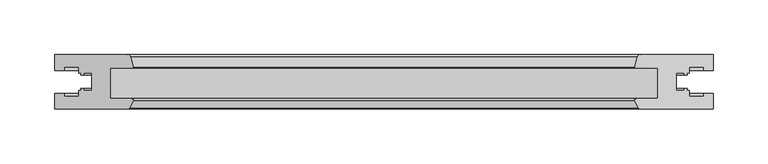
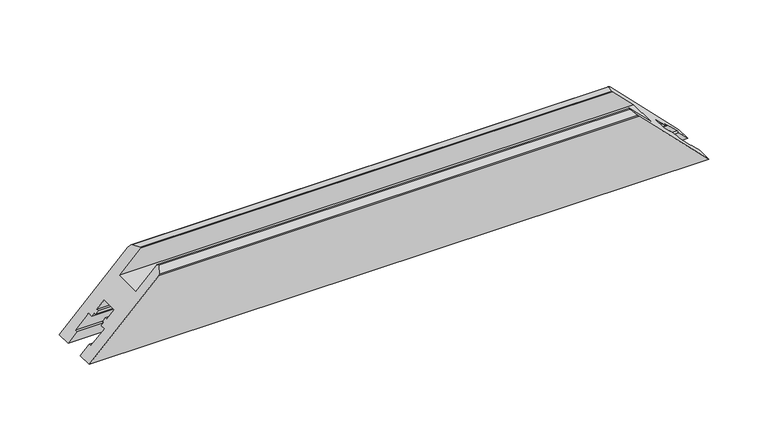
"""IFC4 building model written with IfcOpenShell, lengths in millimetres: proxy geometry, Weiku - Montante - Folha de correr 02.2.01.020 : Weiku - Montante - Folha de correr 02.2.01.020."""

from ifc_helpers import new_model, si_unit, frame, origin, place, context, project, spatial, ellipse_curve, source, transform, mapped, element, save
from ifc_brep_helpers import plane_surface, cylinder_surface, advanced_brep


def generic_models_2c0dd629(model_context):
    return source(origin(), model_context, "Body", "AdvancedBrep", [
        advanced_brep(
        [(301.125, 50.0, 0.0), (-301.125, 50.0, 0.0), (-234.6254942, 50.0, 66.4995058), (234.6254942, 50.0, 66.4995058), (301.125, 35.5, 0.0), (-301.125, 35.5, 0.0), (-301.125, 0.0, 0.0), (301.125, 0.0, 0.0), (233.6129875, 0.0, 67.5120125), (-233.6129875, 0.0, 67.5120125), (-292.525, 35.5, 8.6), (-292.525, 38.3, 8.6), (-279.325, 38.3, 21.8), (-279.325, 33.1, 21.8), (-276.9774152, 33.1, 24.1475848), (-277.1523926, 31.1, 23.9726074), (-274.325, 31.1, 26.8), (-274.325, 33.1, 26.8), (-267.125, 33.1, 34.0), (-267.125, 16.9, 34.0), (-274.325, 16.9, 26.8), (-274.325, 18.9, 26.8), (-277.1523926, 18.9, 23.9726074), (-276.9774152, 16.9, 24.1475848), (-279.325, 16.9, 21.8), (-279.325, 11.7, 21.8), (-292.525, 11.7, 8.6), (-292.525, 14.5, 8.6), (-301.125, 14.5, 0.0), (-232.7190268, 0.5518546, 68.4059732), (-229.1770406, 7.617411, 71.9479594), (-230.3391895, 9.5, 70.7858105), (-250.1257611, 9.5, 50.9992389), (-250.1257611, 37.5, 50.9992389), (-229.6257611, 37.5, 71.4992389), (-229.1427981, 38.1294095, 71.9822019), (-231.7277168, 47.7764571, 69.3972832), (231.7277168, 47.7764571, 69.3972832), (229.1427981, 38.1294095, 71.9822019), (229.6257611, 37.5, 71.4992389), (250.1257611, 37.5, 50.9992389), (250.1257611, 9.5, 50.9992389), (230.3391895, 9.5, 70.7858105), (229.1770406, 7.617411, 71.9479594), (232.7190268, 0.5518546, 68.4059732), (301.125, 14.5, 0.0), (292.525, 14.5, 8.6), (292.525, 11.7, 8.6), (279.325, 11.7, 21.8), (279.325, 16.9, 21.8), (276.9774152, 16.9, 24.1475848), (277.1523926, 18.9, 23.9726074), (274.325, 18.9, 26.8), (274.325, 16.9, 26.8), (267.125, 16.9, 34.0), (267.125, 33.1, 34.0), (274.325, 33.1, 26.8), (274.325, 31.1, 26.8), (277.1523926, 31.1, 23.9726074), (276.9774152, 33.1, 24.1475848), (279.325, 33.1, 21.8), (279.325, 38.3, 21.8), (292.525, 38.3, 8.6), (292.525, 35.5, 8.6)],
        [
            (0, 1),
            (1, 2),
            (2, 3),
            (3, 0),
            (0, 4),
            (4, 5),
            (5, 1),
            (6, 7),
            (7, 8),
            (8, 9),
            (9, 6),
            (5, 10),
            (10, 11),
            (11, 12),
            (12, 13),
            (13, 14),
            (14, 15),
            (15, 16),
            (16, 17),
            (17, 18),
            (18, 19),
            (19, 20),
            (20, 21),
            (21, 22),
            (22, 23),
            (23, 24),
            (24, 25),
            (25, 26),
            (26, 27),
            (27, 28),
            (28, 6),
            (9, 29, ellipse_curve(frame((-233.6129875, 1.0, 67.5120125), z_axis=(-0.7071067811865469, 0.0, 0.7071067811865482), x_axis=(-0.707106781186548, 0.0, -0.7071067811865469)), 1.4142136, 1.0)),
            (29, 30),
            (30, 31, ellipse_curve(frame((-230.3391895, 8.2, 70.7858105), z_axis=(-0.7071067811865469, 0.0, 0.7071067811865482), x_axis=(-0.707106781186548, 0.0, -0.7071067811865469)), 1.8384776, 1.3)),
            (31, 32),
            (32, 33),
            (33, 34),
            (34, 35, ellipse_curve(frame((-229.6257611, 38.0, 71.4992389), z_axis=(-0.7071067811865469, 0.0, 0.7071067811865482), x_axis=(-0.707106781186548, 0.0, -0.7071067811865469)), 0.7071068, 0.5)),
            (35, 36),
            (36, 2, ellipse_curve(frame((-234.6254942, 47.0, 66.4995058), z_axis=(-0.7071067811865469, 0.0, 0.7071067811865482), x_axis=(-0.707106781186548, 0.0, -0.7071067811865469)), 4.2426407, 3.0)),
            (3, 37, ellipse_curve(frame((234.6254942, 47.0, 66.4995058), z_axis=(0.7071067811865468, 0.0, 0.7071067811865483), x_axis=(-0.7071067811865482, 0.0, 0.7071067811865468)), 4.2426407, 3.0)),
            (37, 38),
            (38, 39, ellipse_curve(frame((229.6257611, 38.0, 71.4992389), z_axis=(0.7071067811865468, 0.0, 0.7071067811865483), x_axis=(-0.7071067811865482, 0.0, 0.7071067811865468)), 0.7071068, 0.5)),
            (39, 40),
            (40, 41),
            (41, 42),
            (42, 43, ellipse_curve(frame((230.3391895, 8.2, 70.7858105), z_axis=(0.7071067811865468, 0.0, 0.7071067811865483), x_axis=(-0.7071067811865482, 0.0, 0.7071067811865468)), 1.8384776, 1.3)),
            (43, 44),
            (44, 8, ellipse_curve(frame((233.6129875, 1.0, 67.5120125), z_axis=(0.7071067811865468, 0.0, 0.7071067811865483), x_axis=(-0.7071067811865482, 0.0, 0.7071067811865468)), 1.4142136, 1.0)),
            (7, 45),
            (45, 46),
            (46, 47),
            (47, 48),
            (48, 49),
            (49, 50),
            (50, 51),
            (51, 52),
            (52, 53),
            (53, 54),
            (54, 55),
            (55, 56),
            (56, 57),
            (57, 58),
            (58, 59),
            (59, 60),
            (60, 61),
            (61, 62),
            (62, 63),
            (63, 4),
            (44, 29),
            (43, 30),
            (42, 31),
            (41, 32),
            (40, 33),
            (39, 34),
            (38, 35),
            (37, 36),
            (63, 10),
            (62, 11),
            (61, 12),
            (60, 13),
            (59, 14),
            (58, 15),
            (57, 16),
            (56, 17),
            (55, 18),
            (54, 19),
            (53, 20),
            (52, 21),
            (51, 22),
            (50, 23),
            (49, 24),
            (48, 25),
            (47, 26),
            (46, 27),
            (45, 28),
        ],
        [
            plane_surface(frame((-301.125, 50.0, 66.4995058), z_axis=(0.0, 1.0, 0.0), x_axis=(1.0, 0.0, 0.0))),
            plane_surface(frame((-301.125, 50.0, 0.0), z_axis=(0.0, 0.0, -1.0), x_axis=(1.0, 0.0, 0.0))),
            plane_surface(frame((-301.125, 0.0, 0.0), z_axis=(0.0, -1.0, 0.0), x_axis=(1.0, 0.0, 0.0))),
            plane_surface(frame((-329.4092712, 0.0, -28.2842712), z_axis=(-0.7071067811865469, 0.0, 0.7071067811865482), x_axis=(0.0, 1.0, 0.0))),
            plane_surface(frame((221.125, 0.0, 80.0), z_axis=(0.7071067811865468, 0.0, 0.7071067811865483), x_axis=(0.0, 1.0, 0.0))),
            cylinder_surface(frame((-301.125, 1.0, 67.5120125), z_axis=(-1.0, 0.0, 0.0), x_axis=(0.0, 1.0, 0.0)), 1.0),
            plane_surface(frame((-301.125, 0.5518546, 68.4059732), z_axis=(0.0, -0.4481453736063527, 0.8939606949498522), x_axis=(1.0, 0.0, 0.0))),
            cylinder_surface(frame((-301.125, 8.2, 70.7858105), z_axis=(-1.0, 0.0, 0.0), x_axis=(0.0, 1.0, 0.0)), 1.3),
            plane_surface(frame((-301.125, 9.5, 70.7858105), z_axis=(0.0, 1.0, 0.0), x_axis=(1.0, 0.0, 0.0))),
            plane_surface(frame((-301.125, 9.5, 50.9992389), z_axis=(0.0, 0.0, 1.0), x_axis=(1.0, 0.0, 0.0))),
            plane_surface(frame((-301.125, 37.5, 50.9992389), z_axis=(0.0, -1.0, 0.0), x_axis=(1.0, 0.0, 0.0))),
            cylinder_surface(frame((-301.125, 38.0, 71.4992389), z_axis=(-1.0, 0.0, 0.0), x_axis=(0.0, 1.0, 0.0)), 0.5),
            plane_surface(frame((-301.125, 38.1294095, 71.9822019), z_axis=(0.0, 0.2588190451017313, 0.9659258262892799), x_axis=(1.0, 0.0, 0.0))),
            cylinder_surface(frame((-301.125, 47.0, 66.4995058), z_axis=(-1.0, 0.0, 0.0), x_axis=(0.0, 1.0, 0.0)), 3.0),
            plane_surface(frame((-301.125, 35.5, 0.0), z_axis=(0.0, -1.0, 0.0), x_axis=(1.0, 0.0, 0.0))),
            plane_surface(frame((-301.125, 35.5, 8.6), z_axis=(0.0, 0.0, 1.0), x_axis=(1.0, 0.0, 0.0))),
            plane_surface(frame((-301.125, 38.3, 8.6), z_axis=(0.0, -1.0, 0.0), x_axis=(1.0, 0.0, 0.0))),
            plane_surface(frame((-301.125, 38.3, 21.8), z_axis=(0.0, 0.0, -1.0), x_axis=(1.0, 0.0, 0.0))),
            plane_surface(frame((-301.125, 33.1, 21.8), z_axis=(0.0, -1.0, 0.0), x_axis=(1.0, 0.0, 0.0))),
            plane_surface(frame((-301.125, 33.1, 24.1475848), z_axis=(0.0, 0.08715574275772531, -0.9961946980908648), x_axis=(1.0, 0.0, 0.0))),
            plane_surface(frame((-301.125, 31.1, 23.9726074), z_axis=(0.0, -1.0, 0.0), x_axis=(1.0, 0.0, 0.0))),
            plane_surface(frame((-301.125, 31.1, 26.8), z_axis=(0.0, 0.0, 1.0), x_axis=(1.0, 0.0, 0.0))),
            plane_surface(frame((-301.125, 33.1, 26.8), z_axis=(0.0, -1.0, 0.0), x_axis=(1.0, 0.0, 0.0))),
            plane_surface(frame((-301.125, 33.1, 34.0), z_axis=(0.0, 0.0, -1.0), x_axis=(1.0, 0.0, 0.0))),
            plane_surface(frame((-301.125, 16.9, 34.0), z_axis=(0.0, 1.0, 0.0), x_axis=(1.0, 0.0, 0.0))),
            plane_surface(frame((-301.125, 16.9, 26.8), z_axis=(0.0, 0.0, 1.0), x_axis=(1.0, 0.0, 0.0))),
            plane_surface(frame((-301.125, 18.9, 26.8), z_axis=(0.0, 1.0, 0.0), x_axis=(1.0, 0.0, 0.0))),
            plane_surface(frame((-301.125, 18.9, 23.9726074), z_axis=(0.0, -0.08715574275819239, -0.9961946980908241), x_axis=(1.0, 0.0, 0.0))),
            plane_surface(frame((-301.125, 16.9, 24.1475848), z_axis=(0.0, 1.0, 0.0), x_axis=(1.0, 0.0, 0.0))),
            plane_surface(frame((-301.125, 16.9, 21.8), z_axis=(0.0, 0.0, -1.0), x_axis=(1.0, 0.0, 0.0))),
            plane_surface(frame((-301.125, 11.7, 21.8), z_axis=(0.0, 1.0, 0.0), x_axis=(1.0, 0.0, 0.0))),
            plane_surface(frame((-301.125, 11.7, 8.6), z_axis=(0.0, 0.0, 1.0), x_axis=(1.0, 0.0, 0.0))),
            plane_surface(frame((-301.125, 14.5, 8.6), z_axis=(0.0, 1.0, 0.0), x_axis=(1.0, 0.0, 0.0))),
            plane_surface(frame((-301.125, 14.5, 0.0), z_axis=(0.0, 0.0, -1.0), x_axis=(1.0, 0.0, 0.0))),
        ],
        [
            (0, [[1, 2, 3, 4]]),
            (1, [[-1, 5, 6, 7]]),
            (2, [[8, 9, 10, 11]]),
            (3, [[-2, -7, 12, 13, 14, 15, 16, 17, 18, 19, 20, 21, 22, 23, 24, 25, 26, 27, 28, 29, 30, 31, -11, 32, 33, 34, 35, 36, 37, 38, 39, 40]]),
            (4, [[-4, 41, 42, 43, 44, 45, 46, 47, 48, 49, -9, 50, 51, 52, 53, 54, 55, 56, 57, 58, 59, 60, 61, 62, 63, 64, 65, 66, 67, 68, 69, -5]]),
            (5, [[-32, -10, -49, 70]]),
            (6, [[-33, -70, -48, 71]]),
            (7, [[-34, -71, -47, 72]]),
            (8, [[-35, -72, -46, 73]]),
            (9, [[-36, -73, -45, 74]]),
            (10, [[-37, -74, -44, 75]]),
            (11, [[-38, -75, -43, 76]]),
            (12, [[-39, -76, -42, 77]]),
            (13, [[-40, -77, -41, -3]]),
            (14, [[-6, -69, 78, -12]]),
            (15, [[-13, -78, -68, 79]]),
            (16, [[-14, -79, -67, 80]]),
            (17, [[-15, -80, -66, 81]]),
            (18, [[-16, -81, -65, 82]]),
            (19, [[-17, -82, -64, 83]]),
            (20, [[-18, -83, -63, 84]]),
            (21, [[-19, -84, -62, 85]]),
            (22, [[-20, -85, -61, 86]]),
            (23, [[-21, -86, -60, 87]]),
            (24, [[-22, -87, -59, 88]]),
            (25, [[-23, -88, -58, 89]]),
            (26, [[-24, -89, -57, 90]]),
            (27, [[-25, -90, -56, 91]]),
            (28, [[-26, -91, -55, 92]]),
            (29, [[-27, -92, -54, 93]]),
            (30, [[-28, -93, -53, 94]]),
            (31, [[-29, -94, -52, 95]]),
            (32, [[96, -30, -95, -51]]),
            (33, [[-8, -31, -96, -50]]),
        ],
    ),
    ])


if __name__ == "__main__":
    model = new_model("IFC4")
    model_context = context("Model", 3, world=origin())
    ifc_project = project(units=[si_unit("LENGTHUNIT", "METRE", prefix="MILLI")], contexts=[model_context])
    site = spatial("IfcSite", under=ifc_project)
    building = spatial("IfcBuilding", under=site)
    placement = place(None, origin())
    generic_models_shape = generic_models_2c0dd629(model_context)
    element("IfcBuildingElementProxy", 1, Name="Weiku - Montante - Folha de correr 02.2.01.020 : Weiku - Montante - Folha de correr 02.2.01.020", ObjectType="Weiku - Montante - Folha de correr 02.2.01.020 : Weiku - Montante - Folha de correr 02.2.01.020", at=placement, inside=building, context=model_context, shape_type="MappedRepresentation", body=[
        mapped(generic_models_shape, transform((0.0, 0.0, 0.0), x_axis=(1.0, 0.0, 0.0), y_axis=(0.0, 1.0, 0.0), z_axis=(0.0, 0.0, 1.0))),
    ])
    save(model, "model.ifc")
